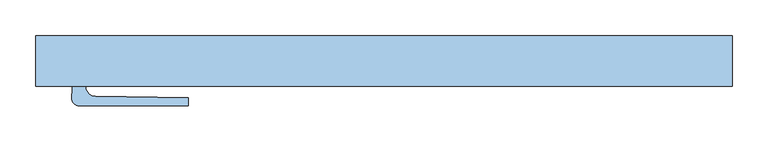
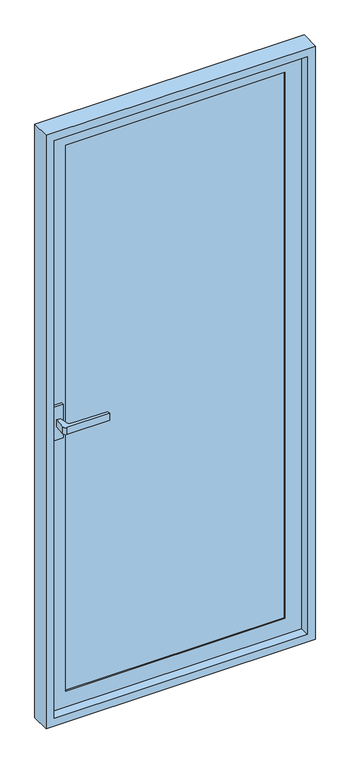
"""IFC4 building model written with IfcOpenShell, lengths in millimetres: window geometry, 窗嵌板_50-70 系列单扇平开铝窗 : 70 系列."""

from ifc_helpers import new_model, si_unit, point, frame, frame_2d, origin, place, context, project, spatial, polyline, circle_curve, trimmed, segment, composite_curve, outline, extrude, source, transform, mapped, element, save


def window_97242802(model_context):
    return source(origin(), model_context, "Body", "SweptSolid", [
        extrude(outline(composite_curve([segment(polyline([(-272.486571, -62.0), (-424.9942515, -62.0)]), True, "CONTINUOUS"), segment(trimmed(circle_curve(frame_2d((-424.9942515, -52.0)), 10.0), [point((-424.9942515, -62.0))], [point((-434.9827145, -51.5197854))], False, "CARTESIAN"), True, "CONTINUOUS"), segment(polyline([(-434.9827145, -51.5197854), (-432.986571, -10.0), (-417.986571, -10.0), (-415.7016816, -36.1164048)]), True, "CONTINUOUS"), segment(trimmed(circle_curve(frame_2d((-401.7549559, -34.8962244)), 14.0), [point((-415.7016816, -36.1164048))], [point((-401.982568, -48.894374))], True, "CARTESIAN"), True, "CONTINUOUS"), segment(polyline([(-401.982568, -48.894374), (-272.486571, -51.0), (-272.486571, -62.0)]), True, "CONTINUOUS")], self_intersect=False)), frame((0.0, 0.0, 1114.5), z_axis=(0.0, 0.0, 1.0), x_axis=(1.0, 0.0, 0.0)), (0.0, 0.0, 1.0), 26.0),
        extrude(outline(polyline([(-409.0, -10.0), (-441.0, -10.0), (-441.0, 0.0), (-409.0, 0.0), (-409.0, -10.0)])), frame((0.0, 0.0, 1063.5), z_axis=(0.0, 0.0, 1.0), x_axis=(1.0, 0.0, 0.0)), (0.0, 0.0, 1.0), 128.0),
        extrude(outline(polyline([(395.0, 25.0), (395.0, 5.0), (-395.0, 5.0), (-395.0, 25.0), (395.0, 25.0)])), frame((0.0, 0.0, 90.0), z_axis=(0.0, 0.0, 1.0), x_axis=(1.0, 0.0, 0.0)), (0.0, 0.0, 1.0), 2075.0),
        extrude(outline(polyline([(30.0, -455.0), (30.0, 455.0), (2225.0, 455.0), (2225.0, -455.0), (30.0, -455.0)]), holes=[polyline([(2165.0, -395.0), (2165.0, 395.0), (90.0, 395.0), (90.0, -395.0), (2165.0, -395.0)])]), frame((0.0, 0.0, 0.0), z_axis=(0.0, 1.0, 0.0), x_axis=(0.0, 0.0, 1.0)), (0.0, 0.0, 1.0), 35.0),
        extrude(outline(polyline([(0.0, -485.0), (0.0, 485.0), (2255.0, 485.0), (2255.0, -485.0), (0.0, -485.0)]), holes=[polyline([(2225.0, -455.0), (2225.0, 455.0), (30.0, 455.0), (30.0, -455.0), (2225.0, -455.0)])]), frame((0.0, -35.0, 0.0), z_axis=(0.0, 1.0, 0.0), x_axis=(0.0, 0.0, 1.0)), (0.0, 0.0, 1.0), 70.0),
    ])


if __name__ == "__main__":
    model = new_model("IFC4")
    model_context = context("Model", 3, world=origin())
    ifc_project = project(units=[si_unit("LENGTHUNIT", "METRE", prefix="MILLI")], contexts=[model_context])
    site = spatial("IfcSite", under=ifc_project)
    building = spatial("IfcBuilding", under=site)
    placement = place(None, origin())
    window_shape = window_97242802(model_context)
    element("IfcWindow", 1, ObjectType="窗嵌板_50-70 系列单扇平开铝窗 : 70 系列", at=placement, inside=building, context=model_context, shape_type="MappedRepresentation", body=[
        mapped(window_shape, transform((0.0, 0.0, 0.0), x_axis=(1.0, 0.0, 0.0), y_axis=(0.0, 1.0, 0.0), z_axis=(0.0, 0.0, 1.0))),
    ])
    save(model, "model.ifc")
